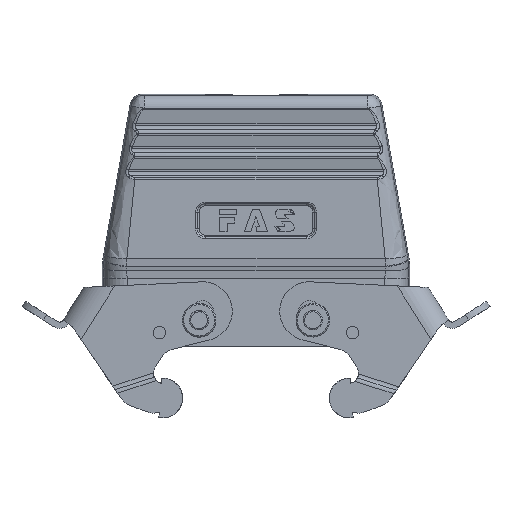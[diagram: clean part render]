
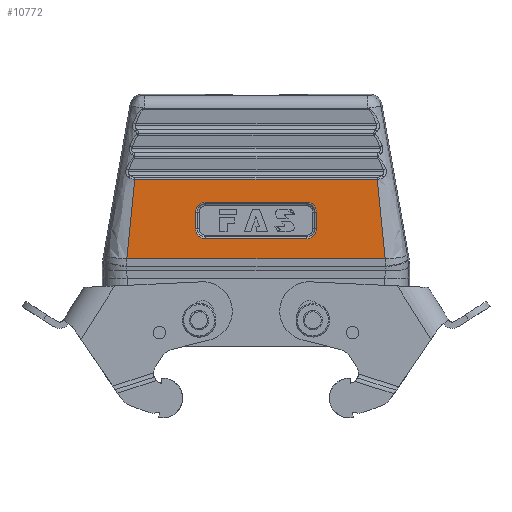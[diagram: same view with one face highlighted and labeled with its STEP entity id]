
A CAD part, front view. The second image highlights one B-rep face of the part: STEP entity #10772.
In plain terms, the highlighted planar face has unit normal (0, -1, 0).
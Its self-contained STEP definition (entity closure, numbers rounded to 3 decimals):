
#99 = CARTESIAN_POINT ( 'NONE',  ( -14.366, -22., 28. ) ) ;
#552 = ORIENTED_EDGE ( 'NONE', *, *, #18005, .F. ) ;
#1019 =( BOUNDED_CURVE ( )  B_SPLINE_CURVE ( 3, ( #22041, #7263, #27408, #17324 ),
 .UNSPECIFIED., .F., .T. ) 
 B_SPLINE_CURVE_WITH_KNOTS ( ( 4, 4 ),
 ( 0., 1. ),
 .UNSPECIFIED. ) 
 CURVE ( )  GEOMETRIC_REPRESENTATION_ITEM ( )  RATIONAL_B_SPLINE_CURVE ( ( 1., 0.805, 0.805, 1. ) ) 
 REPRESENTATION_ITEM ( '' )  );
#1461 = ORIENTED_EDGE ( 'NONE', *, *, #25011, .F. ) ;
#1703 = EDGE_CURVE ( 'NONE', #7972, #18066, #3577, .T. ) ;
#1851 =( BOUNDED_CURVE ( )  B_SPLINE_CURVE ( 3, ( #99, #4943, #15112, #4725 ),
 .UNSPECIFIED., .F., .T. ) 
 B_SPLINE_CURVE_WITH_KNOTS ( ( 4, 4 ),
 ( 0., 1. ),
 .UNSPECIFIED. ) 
 CURVE ( )  GEOMETRIC_REPRESENTATION_ITEM ( )  RATIONAL_B_SPLINE_CURVE ( ( 1., 0.805, 0.805, 1. ) ) 
 REPRESENTATION_ITEM ( '' )  );
#2384 = FACE_BOUND ( 'NONE', #14396, .T. ) ;
#2531 = CARTESIAN_POINT ( 'NONE',  ( 30.51, -22., 24.029 ) ) ;
#2658 = VERTEX_POINT ( 'NONE', #31997 ) ;
#3086 = CARTESIAN_POINT ( 'NONE',  ( 14.366, -22., 32. ) ) ;
#3451 = DIRECTION ( 'NONE',  ( 0., 0., -1. ) ) ;
#3577 = LINE ( 'NONE', #24312, #20210 ) ;
#3802 = VERTEX_POINT ( 'NONE', #31670 ) ;
#4725 = CARTESIAN_POINT ( 'NONE',  ( -12., -22., 25.634 ) ) ;
#4781 = DIRECTION ( 'NONE',  ( -1., 0., 0. ) ) ;
#4943 = CARTESIAN_POINT ( 'NONE',  ( -14.366, -22., 26.614 ) ) ;
#5521 = B_SPLINE_CURVE_WITH_KNOTS ( 'NONE', 3,
 ( #19698, #14759, #29699, #22066, #2531, #12181 ),
 .UNSPECIFIED., .F., .F.,
 ( 4, 2, 4 ),
 ( 0., 0.5, 1. ),
 .UNSPECIFIED. ) ;
#5878 = LINE ( 'NONE', #8582, #12837 ) ;
#6134 = EDGE_CURVE ( 'NONE', #3802, #16479, #29563, .T. ) ;
#6384 = DIRECTION ( 'NONE',  ( 0., 0., 1. ) ) ;
#6511 = ORIENTED_EDGE ( 'NONE', *, *, #31383, .F. ) ;
#6763 = VECTOR ( 'NONE', #6384, 1000. ) ;
#7258 = CARTESIAN_POINT ( 'NONE',  ( -14.366, -22., 33.386 ) ) ;
#7263 = CARTESIAN_POINT ( 'NONE',  ( 13.386, -22., 25.634 ) ) ;
#7625 = VECTOR ( 'NONE', #3451, 1000. ) ;
#7972 = VERTEX_POINT ( 'NONE', #24088 ) ;
#8205 = CARTESIAN_POINT ( 'NONE',  ( -30.248, -22., 27.183 ) ) ;
#8549 = CARTESIAN_POINT ( 'NONE',  ( -30.672, -22., 20.875 ) ) ;
#8566 = CARTESIAN_POINT ( 'NONE',  ( 14.366, -22., 33.386 ) ) ;
#8582 = CARTESIAN_POINT ( 'NONE',  ( -23.5, -22., 39.758 ) ) ;
#9029 = CARTESIAN_POINT ( 'NONE',  ( -28.792, -22., 39.758 ) ) ;
#9699 = ORIENTED_EDGE ( 'NONE', *, *, #18803, .F. ) ;
#9979 = CARTESIAN_POINT ( 'NONE',  ( -13.386, -22., 34.366 ) ) ;
#10489 = EDGE_CURVE ( 'NONE', #31972, #2658, #19882, .T. ) ;
#10659 = ORIENTED_EDGE ( 'NONE', *, *, #14723, .F. ) ;
#10772 = ADVANCED_FACE ( 'NONE', ( #2384, #15518 ), #27635, .F. ) ;
#10941 = CARTESIAN_POINT ( 'NONE',  ( -29.207, -22., 36.619 ) ) ;
#10942 = DIRECTION ( 'NONE',  ( 0., 0., 1. ) ) ;
#11089 = CARTESIAN_POINT ( 'NONE',  ( 14.366, -22., 32. ) ) ;
#11100 = DIRECTION ( 'NONE',  ( 1., 0., 0. ) ) ;
#11152 = AXIS2_PLACEMENT_3D ( 'NONE', #23185, #28041, #10942 ) ;
#11293 = CARTESIAN_POINT ( 'NONE',  ( 13.386, -22., 34.366 ) ) ;
#12181 = CARTESIAN_POINT ( 'NONE',  ( 30.672, -22., 20.875 ) ) ;
#12189 = VERTEX_POINT ( 'NONE', #17155 ) ;
#12837 = VECTOR ( 'NONE', #11100, 1000. ) ;
#13758 = CARTESIAN_POINT ( 'NONE',  ( -14.366, -22., 0. ) ) ;
#14396 = EDGE_LOOP ( 'NONE', ( #1461, #9699, #23513, #31387, #552, #14698, #6511, #24493 ) ) ;
#14670 = VERTEX_POINT ( 'NONE', #9029 ) ;
#14698 = ORIENTED_EDGE ( 'NONE', *, *, #10489, .F. ) ;
#14723 = EDGE_CURVE ( 'NONE', #17461, #7972, #5521, .T. ) ;
#14759 = CARTESIAN_POINT ( 'NONE',  ( 29.208, -22., 36.619 ) ) ;
#15006 = LINE ( 'NONE', #13758, #7625 ) ;
#15112 = CARTESIAN_POINT ( 'NONE',  ( -13.386, -22., 25.634 ) ) ;
#15518 = FACE_OUTER_BOUND ( 'NONE', #15763, .T. ) ;
#15763 = EDGE_LOOP ( 'NONE', ( #17671, #10659, #20139, #25410 ) ) ;
#16479 = VERTEX_POINT ( 'NONE', #30202 ) ;
#17155 = CARTESIAN_POINT ( 'NONE',  ( 12., -22., 25.634 ) ) ;
#17324 = CARTESIAN_POINT ( 'NONE',  ( 14.366, -22., 28. ) ) ;
#17461 = VERTEX_POINT ( 'NONE', #24039 ) ;
#17671 = ORIENTED_EDGE ( 'NONE', *, *, #1703, .F. ) ;
#18005 = EDGE_CURVE ( 'NONE', #2658, #3802, #29867, .T. ) ;
#18066 = VERTEX_POINT ( 'NONE', #8549 ) ;
#18079 = CARTESIAN_POINT ( 'NONE',  ( -23.5, -22., 34.366 ) ) ;
#18803 = EDGE_CURVE ( 'NONE', #23166, #20208, #1851, .T. ) ;
#19127 = LINE ( 'NONE', #24094, #6763 ) ;
#19164 = EDGE_CURVE ( 'NONE', #14670, #17461, #5878, .T. ) ;
#19267 = DIRECTION ( 'NONE',  ( -1., 0., 0. ) ) ;
#19698 = CARTESIAN_POINT ( 'NONE',  ( 28.792, -22., 39.758 ) ) ;
#19783 = CARTESIAN_POINT ( 'NONE',  ( -23.5, -22., 25.634 ) ) ;
#19882 =( BOUNDED_CURVE ( )  B_SPLINE_CURVE ( 3, ( #11089, #8566, #11293, #25916 ),
 .UNSPECIFIED., .F., .T. ) 
 B_SPLINE_CURVE_WITH_KNOTS ( ( 4, 4 ),
 ( 0., 1. ),
 .UNSPECIFIED. ) 
 CURVE ( )  GEOMETRIC_REPRESENTATION_ITEM ( )  RATIONAL_B_SPLINE_CURVE ( ( 1., 0.805, 0.805, 1. ) ) 
 REPRESENTATION_ITEM ( '' )  );
#20139 = ORIENTED_EDGE ( 'NONE', *, *, #19164, .F. ) ;
#20208 = VERTEX_POINT ( 'NONE', #22699 ) ;
#20210 = VECTOR ( 'NONE', #4781, 1000. ) ;
#20747 = CARTESIAN_POINT ( 'NONE',  ( -30.672, -22., 20.875 ) ) ;
#20845 = CARTESIAN_POINT ( 'NONE',  ( -30.509, -22., 24.029 ) ) ;
#22041 = CARTESIAN_POINT ( 'NONE',  ( 12., -22., 25.634 ) ) ;
#22066 = CARTESIAN_POINT ( 'NONE',  ( 30.248, -22., 27.182 ) ) ;
#22699 = CARTESIAN_POINT ( 'NONE',  ( -12., -22., 25.634 ) ) ;
#22998 = EDGE_CURVE ( 'NONE', #16479, #23166, #15006, .T. ) ;
#23166 = VERTEX_POINT ( 'NONE', #28928 ) ;
#23185 = CARTESIAN_POINT ( 'NONE',  ( -23.5, -22., 0. ) ) ;
#23283 = VECTOR ( 'NONE', #19267, 1000. ) ;
#23513 = ORIENTED_EDGE ( 'NONE', *, *, #22998, .F. ) ;
#24039 = CARTESIAN_POINT ( 'NONE',  ( 28.792, -22., 39.758 ) ) ;
#24088 = CARTESIAN_POINT ( 'NONE',  ( 30.672, -22., 20.875 ) ) ;
#24094 = CARTESIAN_POINT ( 'NONE',  ( 14.366, -22., 0. ) ) ;
#24312 = CARTESIAN_POINT ( 'NONE',  ( -264.098, -22., 20.875 ) ) ;
#24493 = ORIENTED_EDGE ( 'NONE', *, *, #25046, .F. ) ;
#24629 = LINE ( 'NONE', #19783, #30742 ) ;
#24953 = DIRECTION ( 'NONE',  ( 1., 0., 0. ) ) ;
#25011 = EDGE_CURVE ( 'NONE', #20208, #12189, #24629, .T. ) ;
#25046 = EDGE_CURVE ( 'NONE', #12189, #28528, #1019, .T. ) ;
#25410 = ORIENTED_EDGE ( 'NONE', *, *, #28206, .F. ) ;
#25655 = CARTESIAN_POINT ( 'NONE',  ( -29.596, -22., 33.477 ) ) ;
#25916 = CARTESIAN_POINT ( 'NONE',  ( 12., -22., 34.366 ) ) ;
#26366 = CARTESIAN_POINT ( 'NONE',  ( 14.366, -22., 28. ) ) ;
#27194 = CARTESIAN_POINT ( 'NONE',  ( -14.366, -22., 32. ) ) ;
#27408 = CARTESIAN_POINT ( 'NONE',  ( 14.366, -22., 26.614 ) ) ;
#27635 = PLANE ( 'NONE',  #11152 ) ;
#28041 = DIRECTION ( 'NONE',  ( 0., 1., 0. ) ) ;
#28136 = B_SPLINE_CURVE_WITH_KNOTS ( 'NONE', 3,
 ( #20747, #20845, #8205, #25655, #10941, #28151 ),
 .UNSPECIFIED., .F., .F.,
 ( 4, 2, 4 ),
 ( 0., 0.5, 1. ),
 .UNSPECIFIED. ) ;
#28151 = CARTESIAN_POINT ( 'NONE',  ( -28.792, -22., 39.758 ) ) ;
#28206 = EDGE_CURVE ( 'NONE', #18066, #14670, #28136, .T. ) ;
#28528 = VERTEX_POINT ( 'NONE', #26366 ) ;
#28928 = CARTESIAN_POINT ( 'NONE',  ( -14.366, -22., 28. ) ) ;
#29558 = CARTESIAN_POINT ( 'NONE',  ( -12., -22., 34.366 ) ) ;
#29563 =( BOUNDED_CURVE ( )  B_SPLINE_CURVE ( 3, ( #29558, #9979, #7258, #27194 ),
 .UNSPECIFIED., .F., .T. ) 
 B_SPLINE_CURVE_WITH_KNOTS ( ( 4, 4 ),
 ( 0., 1. ),
 .UNSPECIFIED. ) 
 CURVE ( )  GEOMETRIC_REPRESENTATION_ITEM ( )  RATIONAL_B_SPLINE_CURVE ( ( 1., 0.805, 0.805, 1. ) ) 
 REPRESENTATION_ITEM ( '' )  );
#29699 = CARTESIAN_POINT ( 'NONE',  ( 29.597, -22., 33.477 ) ) ;
#29867 = LINE ( 'NONE', #18079, #23283 ) ;
#30202 = CARTESIAN_POINT ( 'NONE',  ( -14.366, -22., 32. ) ) ;
#30742 = VECTOR ( 'NONE', #24953, 1000. ) ;
#31383 = EDGE_CURVE ( 'NONE', #28528, #31972, #19127, .T. ) ;
#31387 = ORIENTED_EDGE ( 'NONE', *, *, #6134, .F. ) ;
#31670 = CARTESIAN_POINT ( 'NONE',  ( -12., -22., 34.366 ) ) ;
#31972 = VERTEX_POINT ( 'NONE', #3086 ) ;
#31997 = CARTESIAN_POINT ( 'NONE',  ( 12., -22., 34.366 ) ) ;
